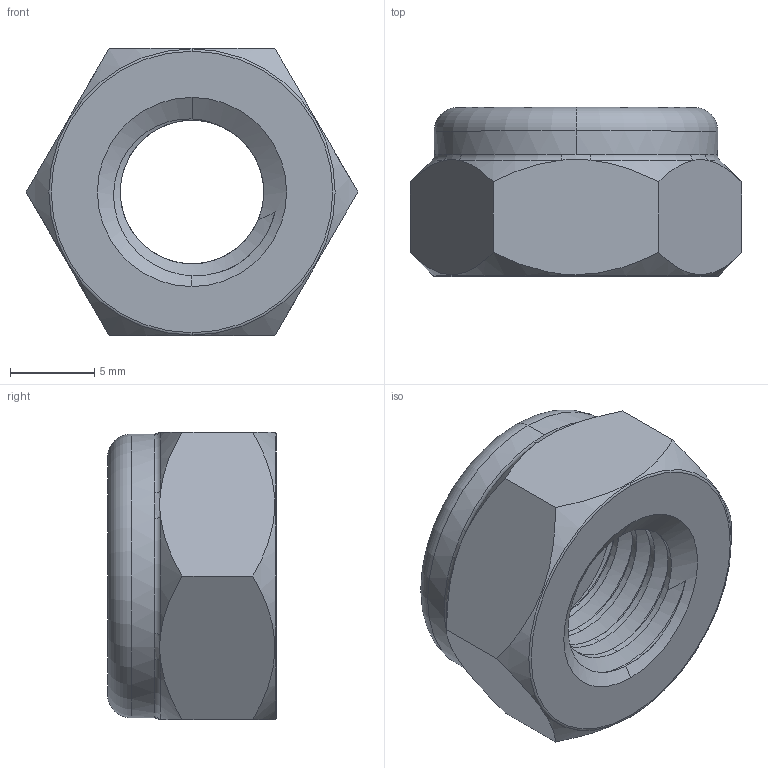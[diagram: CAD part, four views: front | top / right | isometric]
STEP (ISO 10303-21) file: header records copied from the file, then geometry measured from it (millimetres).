
FILE_DESCRIPTION (( 'STEP AP203' ), '1' );
FILE_NAME ('TANK-304-M10.STEP', '2026-08-24T14:42:42', ( '' ), ( '' ), 'SwSTEP 2.0', 'SolidWorks 2020', '' );
FILE_SCHEMA (( 'CONFIG_CONTROL_DESIGN' ));
Length unit declared in the file: millimetre
Products named in the file (1): TANK-304-M10
Bounding box: 19.63 x 10 x 17 mm (x, y, z)
Volume: 1623.9 mm3; surface area: 1866.3 mm2
Topology: 2 solids, 2 shells, 63 faces, 153 edges, 94 vertices
Faces by surface type: cylinder 16, torus 14, cone 14, plane 10, bspline 9
Entity records: 3864 total; most frequent: CARTESIAN_POINT 2425, ORIENTED_EDGE 306, DIRECTION 263, EDGE_CURVE 153, AXIS2_PLACEMENT_3D 117, VERTEX_POINT 94, EDGE_LOOP 67, ADVANCED_FACE 63
